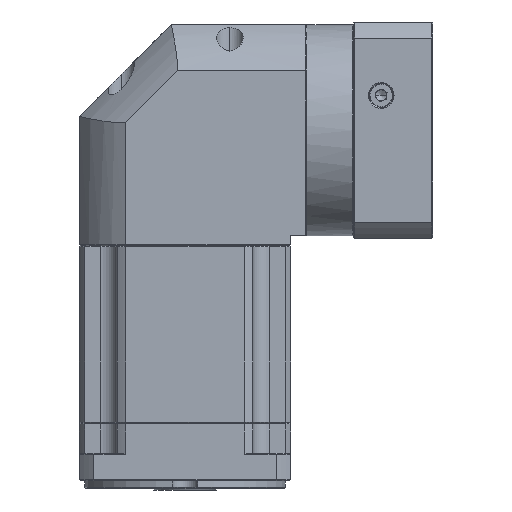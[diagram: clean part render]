
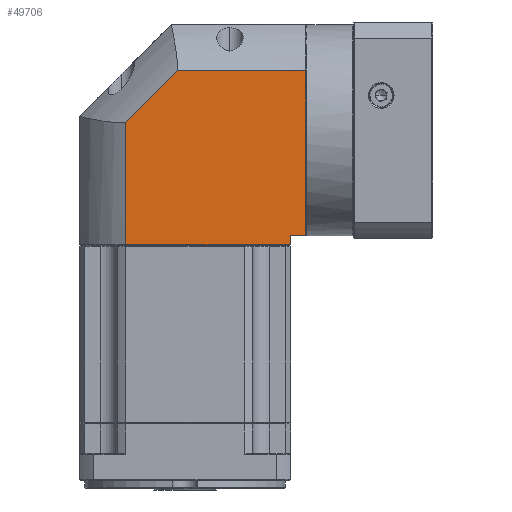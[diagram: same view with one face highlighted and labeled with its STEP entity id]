
A CAD part, front view. The second image highlights one B-rep face of the part: STEP entity #49706.
In plain terms, the highlighted planar face has unit normal (0, -1, 0).
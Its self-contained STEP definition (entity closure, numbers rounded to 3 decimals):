
#510 = DIRECTION ( 'NONE',  ( 0., 1., 0. ) ) ;
#4338 = EDGE_CURVE ( 'NONE', #16726, #122696, #62132, .T. ) ;
#11132 = PLANE ( 'NONE',  #96312 ) ;
#11443 = CARTESIAN_POINT ( 'NONE',  ( 39.443, 0.612, 39.208 ) ) ;
#12007 = CARTESIAN_POINT ( 'NONE',  ( -13.995, 0.612, -55.692 ) ) ;
#13931 = DIRECTION ( 'NONE',  ( 0., 0., -1. ) ) ;
#15968 = CARTESIAN_POINT ( 'NONE',  ( 109.405, 0.612, 39.208 ) ) ;
#16726 = VERTEX_POINT ( 'NONE', #15968 ) ;
#19360 = VERTEX_POINT ( 'NONE', #78683 ) ;
#20277 = ORIENTED_EDGE ( 'NONE', *, *, #76727, .F. ) ;
#20786 = CARTESIAN_POINT ( 'NONE',  ( -13.995, 0.612, 39.208 ) ) ;
#24140 = LINE ( 'NONE', #122294, #57625 ) ;
#24232 = VERTEX_POINT ( 'NONE', #11443 ) ;
#24963 = DIRECTION ( 'NONE',  ( -1., 0., 0. ) ) ;
#26181 = EDGE_CURVE ( 'NONE', #19360, #84322, #120013, .T. ) ;
#26286 = CARTESIAN_POINT ( 'NONE',  ( -13.995, 0.612, -50.692 ) ) ;
#29658 = FACE_OUTER_BOUND ( 'NONE', #106293, .T. ) ;
#33805 = CARTESIAN_POINT ( 'NONE',  ( 109.405, 0.612, -50.692 ) ) ;
#34142 = CARTESIAN_POINT ( 'NONE',  ( 11.105, 0.612, 10.87 ) ) ;
#38096 = VECTOR ( 'NONE', #24963, 1000. ) ;
#41457 = VECTOR ( 'NONE', #104074, 1000. ) ;
#43840 = VECTOR ( 'NONE', #101518, 1000. ) ;
#45740 = ORIENTED_EDGE ( 'NONE', *, *, #93023, .F. ) ;
#49706 = ADVANCED_FACE ( 'NONE', ( #29658 ), #11132, .F. ) ;
#52270 = CARTESIAN_POINT ( 'NONE',  ( 109.405, 0.612, -62.192 ) ) ;
#52582 = DIRECTION ( 'NONE',  ( 1., 0., 0. ) ) ;
#53242 = VECTOR ( 'NONE', #90388, 1000. ) ;
#54553 = VECTOR ( 'NONE', #114169, 1000. ) ;
#57625 = VECTOR ( 'NONE', #61547, 1000. ) ;
#61547 = DIRECTION ( 'NONE',  ( 0., 0., 1. ) ) ;
#62132 = LINE ( 'NONE', #52270, #41457 ) ;
#67665 = ORIENTED_EDGE ( 'NONE', *, *, #26181, .F. ) ;
#68104 = EDGE_CURVE ( 'NONE', #122696, #77888, #127447, .T. ) ;
#74533 = CARTESIAN_POINT ( 'NONE',  ( 101.005, 0.612, -62.192 ) ) ;
#76388 = CARTESIAN_POINT ( 'NONE',  ( 101.005, 0.612, -50.692 ) ) ;
#76727 = EDGE_CURVE ( 'NONE', #24232, #16726, #80559, .T. ) ;
#77888 = VERTEX_POINT ( 'NONE', #76388 ) ;
#78683 = CARTESIAN_POINT ( 'NONE',  ( 101.005, 0.612, -55.692 ) ) ;
#79968 = ORIENTED_EDGE ( 'NONE', *, *, #83058, .F. ) ;
#80385 = LINE ( 'NONE', #100724, #53242 ) ;
#80559 = LINE ( 'NONE', #20786, #43840 ) ;
#83058 = EDGE_CURVE ( 'NONE', #77888, #19360, #122122, .T. ) ;
#84322 = VERTEX_POINT ( 'NONE', #88189 ) ;
#88189 = CARTESIAN_POINT ( 'NONE',  ( 11.105, 0.612, -55.692 ) ) ;
#90388 = DIRECTION ( 'NONE',  ( 0.707, 0., 0.707 ) ) ;
#93023 = EDGE_CURVE ( 'NONE', #84322, #109051, #24140, .T. ) ;
#95567 = ORIENTED_EDGE ( 'NONE', *, *, #68104, .F. ) ;
#96312 = AXIS2_PLACEMENT_3D ( 'NONE', #122212, #510, #52582 ) ;
#98149 = VECTOR ( 'NONE', #13931, 1000. ) ;
#100724 = CARTESIAN_POINT ( 'NONE',  ( 11.105, 0.612, 10.87 ) ) ;
#101518 = DIRECTION ( 'NONE',  ( 1., 0., 0. ) ) ;
#104074 = DIRECTION ( 'NONE',  ( 0., 0., -1. ) ) ;
#106293 = EDGE_LOOP ( 'NONE', ( #79968, #95567, #132015, #20277, #122445, #45740, #67665 ) ) ;
#108666 = EDGE_CURVE ( 'NONE', #109051, #24232, #80385, .T. ) ;
#109051 = VERTEX_POINT ( 'NONE', #34142 ) ;
#114169 = DIRECTION ( 'NONE',  ( -1., 0., 0. ) ) ;
#120013 = LINE ( 'NONE', #12007, #54553 ) ;
#122122 = LINE ( 'NONE', #74533, #98149 ) ;
#122212 = CARTESIAN_POINT ( 'NONE',  ( -13.995, 0.612, -62.192 ) ) ;
#122294 = CARTESIAN_POINT ( 'NONE',  ( 11.105, 0.612, -62.192 ) ) ;
#122445 = ORIENTED_EDGE ( 'NONE', *, *, #108666, .F. ) ;
#122696 = VERTEX_POINT ( 'NONE', #33805 ) ;
#127447 = LINE ( 'NONE', #26286, #38096 ) ;
#132015 = ORIENTED_EDGE ( 'NONE', *, *, #4338, .F. ) ;
